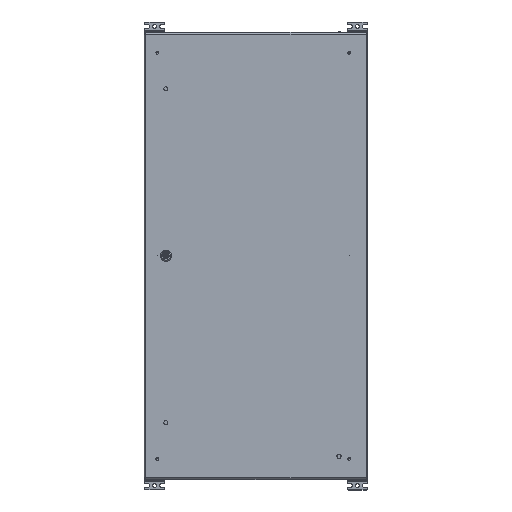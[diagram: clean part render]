
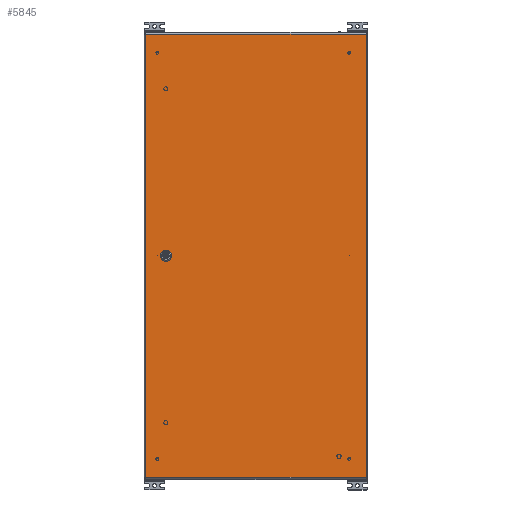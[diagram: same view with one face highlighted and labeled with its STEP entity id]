
A CAD part, top view. The second image highlights one B-rep face of the part: STEP entity #5845.
In plain terms, the highlighted planar face has unit normal (0, 0, 1).
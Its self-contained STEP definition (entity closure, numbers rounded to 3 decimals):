
#5845=ADVANCED_FACE('',(#14726,#14728),#14730,.T.);
#14726=FACE_BOUND('',#14727,.T.);
#14727=EDGE_LOOP('',(#40801,#40802,#40803,#40804));
#14728=FACE_BOUND('',#14729,.T.);
#14729=EDGE_LOOP('',(#40805,#40806,#40807,#40808,#40809,#40810,#40811,#40812));
#14730=PLANE('',#14731);
#14731=AXIS2_PLACEMENT_3D('',#14732,#14733,#14734);
#14732=CARTESIAN_POINT('',(0.,0.,1.5));
#14733=DIRECTION('',(0.,0.,1.));
#14734=DIRECTION('',(1.,0.,0.));
#40801=ORIENTED_EDGE('',*,*,#46084,.T.);
#40802=ORIENTED_EDGE('',*,*,#46085,.T.);
#40803=ORIENTED_EDGE('',*,*,#46086,.T.);
#40804=ORIENTED_EDGE('',*,*,#46087,.T.);
#40805=ORIENTED_EDGE('',*,*,#46043,.T.);
#40806=ORIENTED_EDGE('',*,*,#46058,.T.);
#40807=ORIENTED_EDGE('',*,*,#46056,.T.);
#40808=ORIENTED_EDGE('',*,*,#46054,.T.);
#40809=ORIENTED_EDGE('',*,*,#46052,.T.);
#40810=ORIENTED_EDGE('',*,*,#46050,.T.);
#40811=ORIENTED_EDGE('',*,*,#46048,.T.);
#40812=ORIENTED_EDGE('',*,*,#46046,.T.);
#46043=EDGE_CURVE('',#50060,#50061,#50062,.F.);
#46046=EDGE_CURVE('',#50065,#50060,#50066,.F.);
#46048=EDGE_CURVE('',#50068,#50065,#50069,.F.);
#46050=EDGE_CURVE('',#50071,#50068,#50072,.F.);
#46052=EDGE_CURVE('',#50074,#50071,#50075,.F.);
#46054=EDGE_CURVE('',#50077,#50074,#50078,.F.);
#46056=EDGE_CURVE('',#50080,#50077,#50081,.F.);
#46058=EDGE_CURVE('',#50061,#50080,#50083,.F.);
#46084=EDGE_CURVE('',#50124,#50125,#50126,.T.);
#46085=EDGE_CURVE('',#50125,#50127,#50128,.T.);
#46086=EDGE_CURVE('',#50127,#50129,#50130,.T.);
#46087=EDGE_CURVE('',#50129,#50124,#50131,.T.);
#50060=VERTEX_POINT('',#59761);
#50061=VERTEX_POINT('',#59762);
#50062=LINE('',#59763,#59764);
#50065=VERTEX_POINT('',#59772);
#50066=CIRCLE('',#59773,11.25);
#50068=VERTEX_POINT('',#59780);
#50069=LINE('',#59781,#59782);
#50071=VERTEX_POINT('',#59787);
#50072=CIRCLE('',#59788,11.25);
#50074=VERTEX_POINT('',#59795);
#50075=LINE('',#59796,#59797);
#50077=VERTEX_POINT('',#59802);
#50078=CIRCLE('',#59803,11.25);
#50080=VERTEX_POINT('',#59810);
#50081=LINE('',#59811,#59812);
#50083=CIRCLE('',#59817,11.25);
#50124=VERTEX_POINT('',#59918);
#50125=VERTEX_POINT('',#59919);
#50126=LINE('',#59920,#59921);
#50127=VERTEX_POINT('',#59923);
#50128=LINE('',#59924,#59925);
#50129=VERTEX_POINT('',#59927);
#50130=LINE('',#59928,#59929);
#50131=LINE('',#59931,#59932);
#59761=CARTESIAN_POINT('',(-589.545,-64.6,1.5));
#59762=CARTESIAN_POINT('',(-599.455,-64.6,1.5));
#59763=CARTESIAN_POINT('',(-599.455,-64.6,1.5));
#59764=VECTOR('',#59765,1.);
#59765=DIRECTION('',(1.,0.,0.));
#59772=CARTESIAN_POINT('',(-584.4,-59.455,1.5));
#59773=AXIS2_PLACEMENT_3D('',#59774,#59775,#59776);
#59774=CARTESIAN_POINT('',(-594.5,-54.5,1.5));
#59775=DIRECTION('',(0.,0.,1.));
#59776=DIRECTION('',(0.44,-0.898,0.));
#59780=CARTESIAN_POINT('',(-584.4,-49.545,1.5));
#59781=CARTESIAN_POINT('',(-584.4,-59.455,1.5));
#59782=VECTOR('',#59783,1.);
#59783=DIRECTION('',(0.,1.,0.));
#59787=CARTESIAN_POINT('',(-589.545,-44.4,1.5));
#59788=AXIS2_PLACEMENT_3D('',#59789,#59790,#59791);
#59789=CARTESIAN_POINT('',(-594.5,-54.5,1.5));
#59790=DIRECTION('',(0.,0.,1.));
#59791=DIRECTION('',(0.898,0.44,0.));
#59795=CARTESIAN_POINT('',(-599.455,-44.4,1.5));
#59796=CARTESIAN_POINT('',(-589.545,-44.4,1.5));
#59797=VECTOR('',#59798,1.);
#59798=DIRECTION('',(-1.,0.,0.));
#59802=CARTESIAN_POINT('',(-604.6,-49.545,1.5));
#59803=AXIS2_PLACEMENT_3D('',#59804,#59805,#59806);
#59804=CARTESIAN_POINT('',(-594.5,-54.5,1.5));
#59805=DIRECTION('',(0.,0.,1.));
#59806=DIRECTION('',(-0.44,0.898,0.));
#59810=CARTESIAN_POINT('',(-604.6,-59.455,1.5));
#59811=CARTESIAN_POINT('',(-604.6,-49.545,1.5));
#59812=VECTOR('',#59813,1.);
#59813=DIRECTION('',(0.,-1.,0.));
#59817=AXIS2_PLACEMENT_3D('',#59818,#59819,#59820);
#59818=CARTESIAN_POINT('',(-594.5,-54.5,1.5));
#59819=DIRECTION('',(0.,0.,1.));
#59820=DIRECTION('',(-0.898,-0.44,0.));
#59918=CARTESIAN_POINT('',(0.,-592.,1.5));
#59919=CARTESIAN_POINT('',(0.,0.,1.5));
#59920=CARTESIAN_POINT('',(0.,-592.,1.5));
#59921=VECTOR('',#59922,1.);
#59922=DIRECTION('',(0.,1.,0.));
#59923=CARTESIAN_POINT('',(-1189.,0.,1.5));
#59924=CARTESIAN_POINT('',(0.,0.,1.5));
#59925=VECTOR('',#59926,1.);
#59926=DIRECTION('',(-1.,0.,0.));
#59927=CARTESIAN_POINT('',(-1189.,-592.,1.5));
#59928=CARTESIAN_POINT('',(-1189.,0.,1.5));
#59929=VECTOR('',#59930,1.);
#59930=DIRECTION('',(0.,-1.,0.));
#59931=CARTESIAN_POINT('',(-1189.,-592.,1.5));
#59932=VECTOR('',#59933,1.);
#59933=DIRECTION('',(1.,0.,0.));
